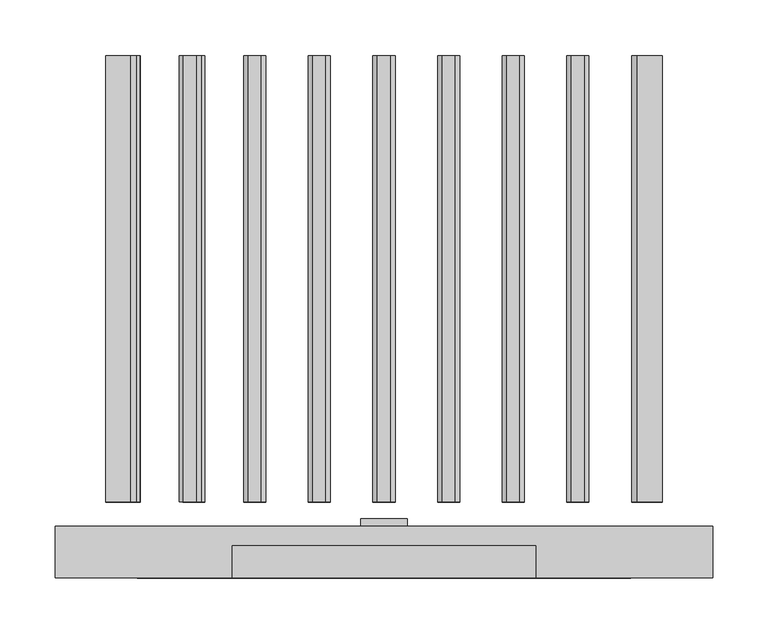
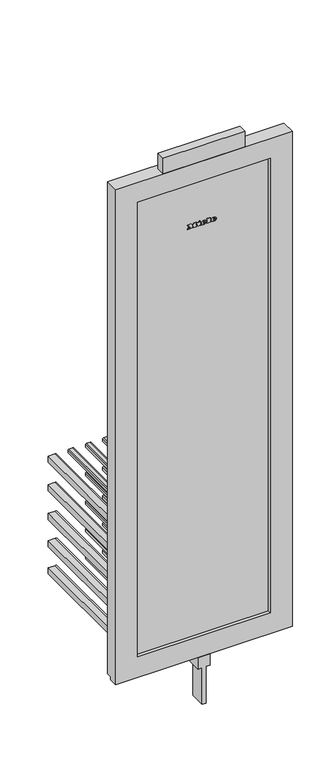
"""IFC4 building model written with IfcOpenShell, lengths in millimetres: proxy geometry, 11261360_GB_KWT2611VI : 36261105_GB_11261360_KWT2611VI."""

from ifc_helpers import new_model, si_unit, point, frame, frame_2d, origin, place, context, project, spatial, polyline, circle_curve, ellipse_curve, trimmed, segment, composite_curve, outline, extrude, faceted_brep, source, transform, mapped, element, save
from ifc_brep_helpers import plane_surface, cylinder_surface, revolved_surface, extruded_surface, advanced_brep


def specialty_equipment_8097dcfd(model_context):
    return source(origin(), model_context, "Body", "SolidModel", [
        faceted_brep([(21.0, 54.0, 229.0), (6.5, 54.0, 229.0), (6.5, 54.0, 98.0), (-6.5, 54.0, 98.0), (-6.5, 54.0, 229.0), (-21.0, 54.0, 229.0), (-21.0, 54.0, 267.0), (21.0, 54.0, 267.0), (-21.0, 0.0, 270.0), (-21.0, 0.0, 229.0), (-6.5, 0.0, 229.0), (-6.5, 0.0, 98.0), (6.5, 0.0, 98.0), (6.5, 0.0, 229.0), (21.0, 0.0, 229.0), (21.0, 0.0, 270.0), (21.0, 47.0, 270.0), (-21.0, 47.0, 270.0), (21.0, 47.0, 267.0), (-21.0, 47.0, 267.0)], [[[0, 1, 2, 3, 4, 5, 6, 7]], [[8, 9, 10, 11, 12, 13, 14, 15]], [[8, 15, 16, 17]], [[15, 14, 0, 7, 18, 16]], [[1, 0, 14, 13]], [[2, 1, 13, 12]], [[3, 2, 12, 11]], [[4, 3, 11, 10]], [[5, 4, 10, 9]], [[9, 8, 17, 19, 6, 5]], [[19, 18, 7, 6]], [[18, 19, 17, 16]]]),
        extrude(outline(polyline([(-223.5, 32.0), (223.5, 32.0), (223.5, 12.0), (-223.5, 12.0), (-223.5, 32.0)])), frame((0.0, 0.0, 344.0), z_axis=(0.0, 0.0, 1.0), x_axis=(1.0, 0.0, 0.0)), (0.0, 0.0, 1.0), 1620.0),
        extrude(outline(polyline([(-137.5, 29.0), (137.5, 29.0), (137.5, 0.0), (-137.5, 0.0), (-137.5, 29.0)])), frame((0.0, 0.0, 2034.0), z_axis=(0.0, 0.0, 1.0), x_axis=(1.0, 0.0, 0.0)), (0.0, 0.0, 1.0), 56.0),
        faceted_brep([(-297.5, 47.0, 2034.0), (-297.5, 47.0, 281.0), (-297.5, 29.0, 281.0), (-297.5, 29.0, 270.0), (-297.5, 0.0, 270.0), (-297.5, 0.0, 2034.0), (297.5, 47.0, 2034.0), (297.5, 0.0, 2034.0), (297.5, 0.0, 270.0), (297.5, 29.0, 270.0), (297.5, 29.0, 281.0), (297.5, 47.0, 281.0), (223.5, 0.0, 1964.0), (223.5, 0.0, 344.0), (-223.5, 0.0, 344.0), (-223.5, 0.0, 1964.0), (223.5, 47.0, 344.0), (223.5, 47.0, 1964.0), (-223.5, 47.0, 1964.0), (-223.5, 47.0, 344.0)], [[[0, 1, 2, 3, 4, 5]], [[6, 7, 8, 9, 10, 11]], [[0, 5, 7, 6]], [[5, 4, 8, 7], [12, 13, 14, 15]], [[4, 3, 9, 8]], [[3, 2, 10, 9]], [[2, 1, 11, 10]], [[1, 0, 6, 11], [16, 17, 18, 19]], [[16, 13, 12, 17]], [[13, 16, 19, 14]], [[14, 19, 18, 15]], [[17, 12, 15, 18]]]),
        advanced_brep(
        [(38.22, 11.0, 1801.792), (38.22, 11.0, 1803.408), (48.924, 11.0, 1803.408), (30.3, 11.0, 1803.408), (34.7, 11.0, 1798.0), (48.652, 11.0, 1801.792), (43.82, 11.0, 1801.792), (40.012, 11.0, 1800.0), (38.22, 11.0, 1805.456), (38.22, 11.0, 1807.2), (40.956, 11.0, 1807.2), (40.956, 11.0, 1805.456), (38.22, 12.0, 1801.792), (40.012, 12.0, 1800.0), (43.82, 12.0, 1801.792), (48.652, 12.0, 1801.792), (34.7, 12.0, 1798.0), (30.3, 12.0, 1803.408), (48.924, 12.0, 1803.408), (38.22, 12.0, 1803.408), (38.22, 12.0, 1805.456), (40.956, 12.0, 1805.456), (40.956, 12.0, 1807.2), (38.22, 12.0, 1807.2)],
        [
            (0, 1),
            (1, 2),
            (2, 3, ellipse_curve(frame((39.612, 11.0, 1803.408), z_axis=(0.0, -1.0, 0.0), x_axis=(-1.0, 0.0, 0.0)), 9.312, 7.696)),
            (3, 4, circle_curve(frame((36.4920873, 11.0, 1803.952), z_axis=(0.0, -1.0, 0.0), x_axis=(0.0, 0.0, -1.0)), 6.2159376)),
            (4, 5, circle_curve(frame((39.4255872, 11.0, 1808.176), z_axis=(0.0, -1.0, 0.0), x_axis=(0.0, 0.0, -1.0)), 11.2197215)),
            (5, 6),
            (6, 7, circle_curve(frame((40.7941176, 11.0, 1803.28), z_axis=(0.0, 1.0, 0.0), x_axis=(0.0, 0.0, -1.0)), 3.3719591)),
            (7, 0, circle_curve(frame((40.012, 11.0, 1801.792), z_axis=(0.0, 1.0, 0.0), x_axis=(0.0, 0.0, -1.0)), 1.792)),
            (8, 9),
            (9, 10, circle_curve(frame((39.588, 11.0, 1807.2), z_axis=(0.0, 1.0, 0.0), x_axis=(0.0, 0.0, -1.0)), 1.368)),
            (10, 11),
            (11, 8),
            (12, 13, circle_curve(frame((40.012, 12.0, 1801.792), z_axis=(0.0, -1.0, 0.0), x_axis=(0.0, 0.0, -1.0)), 1.792)),
            (13, 14, circle_curve(frame((40.7941176, 12.0, 1803.28), z_axis=(0.0, -1.0, 0.0), x_axis=(0.0, 0.0, -1.0)), 3.3719591)),
            (14, 15),
            (15, 16, circle_curve(frame((39.4255872, 12.0, 1808.176), z_axis=(0.0, 1.0, 0.0), x_axis=(0.0, 0.0, -1.0)), 11.2197215)),
            (16, 17, circle_curve(frame((36.4920873, 12.0, 1803.952), z_axis=(0.0, 1.0, 0.0), x_axis=(0.0, 0.0, -1.0)), 6.2159376)),
            (17, 18, ellipse_curve(frame((39.612, 12.0, 1803.408), z_axis=(0.0, 1.0, 0.0), x_axis=(-1.0, 0.0, 0.0)), 9.312, 7.696)),
            (18, 19),
            (19, 12),
            (20, 21),
            (21, 22),
            (22, 23, circle_curve(frame((39.588, 12.0, 1807.2), z_axis=(0.0, -1.0, 0.0), x_axis=(0.0, 0.0, -1.0)), 1.368)),
            (23, 20),
            (0, 12),
            (19, 1),
            (18, 2),
            (5, 15),
            (14, 6),
            (17, 3),
            (13, 7),
            (16, 4),
            (8, 20),
            (23, 9),
            (22, 10),
            (21, 11),
        ],
        [
            plane_surface(frame((38.22, 11.0, 1803.408), z_axis=(0.0, -1.0, 0.0), x_axis=(0.0, 0.0, 1.0))),
            plane_surface(frame((38.22, 12.0, 1803.408), z_axis=(0.0, 1.0, 0.0), x_axis=(0.0, 0.0, -1.0))),
            plane_surface(frame((38.22, 11.0, 1801.792), z_axis=(1.0, 0.0, 0.0), x_axis=(0.0, 1.0, 0.0))),
            plane_surface(frame((38.22, 11.0, 1803.408), z_axis=(0.0, 0.0, -1.0), x_axis=(0.0, 1.0, 0.0))),
            plane_surface(frame((48.652, 11.0, 1801.792), z_axis=(0.0, 0.0, 1.0), x_axis=(0.0, 1.0, 0.0))),
            extruded_surface(trimmed(ellipse_curve(frame((39.612, 13.0, 1803.408), z_axis=(0.0, -1.0, 0.0), x_axis=(-1.0, 0.0, 0.0)), 9.312, 7.696), [point((48.924, 13.0, 1803.408))], [point((30.3, 13.0, 1803.408))], True, "CARTESIAN"), (0.0, -1.0, 0.0), 1.0),
            revolved_surface(polyline([(40.7941176, 12.0, 1799.9080409), (40.7941176, 11.0, 1799.9080409)]), (40.7941176, 12.0, 1803.28), (0.0, 1.0, 0.0)),
            revolved_surface(polyline([(40.012, 12.0, 1800.0), (40.012, 11.0, 1800.0)]), (40.012, 12.0, 1801.792), (0.0, 1.0, 0.0)),
            cylinder_surface(frame((36.4920873, 12.0, 1803.952), z_axis=(0.0, -1.0, 0.0), x_axis=(0.0, 0.0, -1.0)), 6.2159376),
            cylinder_surface(frame((39.4255872, 12.0, 1808.176), z_axis=(0.0, -1.0, 0.0), x_axis=(0.0, 0.0, -1.0)), 11.2197215),
            plane_surface(frame((38.22, 11.0, 1805.456), z_axis=(1.0, 0.0, 0.0), x_axis=(0.0, 1.0, 0.0))),
            revolved_surface(polyline([(39.588, 12.0, 1805.832), (39.588, 11.0, 1805.832)]), (39.588, 12.0, 1807.2), (0.0, 1.0, 0.0)),
            plane_surface(frame((40.956, 11.0, 1807.2), z_axis=(-1.0, 0.0, 0.0), x_axis=(0.0, 1.0, 0.0))),
            plane_surface(frame((40.956, 11.0, 1805.456), z_axis=(0.0, 0.0, 1.0), x_axis=(0.0, 1.0, 0.0))),
        ],
        [
            (0, [[1, 2, 3, 4, 5, 6, 7, 8], [9, 10, 11, 12]]),
            (1, [[13, 14, 15, 16, 17, 18, 19, 20], [21, 22, 23, 24]]),
            (2, [[-1, 25, -20, 26]]),
            (3, [[-2, -26, -19, 27]]),
            (4, [[-6, 28, -15, 29]]),
            (5, [[-3, -27, -18, 30]]),
            (6, [[-7, -29, -14, 31]]),
            (7, [[-8, -31, -13, -25]]),
            (8, [[-4, -30, -17, 32]]),
            (9, [[-5, -32, -16, -28]]),
            (10, [[-9, 33, -24, 34]]),
            (11, [[-10, -34, -23, 35]]),
            (12, [[-11, -35, -22, 36]]),
            (13, [[-12, -36, -21, -33]]),
        ],
    ),
        advanced_brep(
        [(4.828, 11.0, 1801.792), (4.828, 11.0, 1803.408), (15.532, 11.0, 1803.408), (-3.092, 11.0, 1803.408), (1.308, 11.0, 1798.0), (15.26, 11.0, 1801.792), (10.428, 11.0, 1801.792), (6.62, 11.0, 1800.0), (4.828, 11.0, 1805.456), (4.828, 11.0, 1807.2), (7.564, 11.0, 1807.2), (7.564, 11.0, 1805.456), (4.828, 12.0, 1801.792), (6.62, 12.0, 1800.0), (10.428, 12.0, 1801.792), (15.26, 12.0, 1801.792), (1.308, 12.0, 1798.0), (-3.092, 12.0, 1803.408), (15.532, 12.0, 1803.408), (4.828, 12.0, 1803.408), (4.828, 12.0, 1805.456), (7.564, 12.0, 1805.456), (7.564, 12.0, 1807.2), (4.828, 12.0, 1807.2)],
        [
            (0, 1),
            (1, 2),
            (2, 3, ellipse_curve(frame((6.22, 11.0, 1803.408), z_axis=(0.0, -1.0, 0.0), x_axis=(-1.0, 0.0, 0.0)), 9.312, 7.696)),
            (3, 4, circle_curve(frame((3.1000873, 11.0, 1803.952), z_axis=(0.0, -1.0, 0.0), x_axis=(0.0, 0.0, -1.0)), 6.2159376)),
            (4, 5, circle_curve(frame((6.0335872, 11.0, 1808.176), z_axis=(0.0, -1.0, 0.0), x_axis=(0.0, 0.0, -1.0)), 11.2197215)),
            (5, 6),
            (6, 7, circle_curve(frame((7.4021176, 11.0, 1803.28), z_axis=(0.0, 1.0, 0.0), x_axis=(0.0, 0.0, -1.0)), 3.3719591)),
            (7, 0, circle_curve(frame((6.62, 11.0, 1801.792), z_axis=(0.0, 1.0, 0.0), x_axis=(0.0, 0.0, -1.0)), 1.792)),
            (8, 9),
            (9, 10, circle_curve(frame((6.196, 11.0, 1807.2), z_axis=(0.0, 1.0, 0.0), x_axis=(0.0, 0.0, -1.0)), 1.368)),
            (10, 11),
            (11, 8),
            (12, 13, circle_curve(frame((6.62, 12.0, 1801.792), z_axis=(0.0, -1.0, 0.0), x_axis=(0.0, 0.0, -1.0)), 1.792)),
            (13, 14, circle_curve(frame((7.4021176, 12.0, 1803.28), z_axis=(0.0, -1.0, 0.0), x_axis=(0.0, 0.0, -1.0)), 3.3719591)),
            (14, 15),
            (15, 16, circle_curve(frame((6.0335872, 12.0, 1808.176), z_axis=(0.0, 1.0, 0.0), x_axis=(0.0, 0.0, -1.0)), 11.2197215)),
            (16, 17, circle_curve(frame((3.1000873, 12.0, 1803.952), z_axis=(0.0, 1.0, 0.0), x_axis=(0.0, 0.0, -1.0)), 6.2159376)),
            (17, 18, ellipse_curve(frame((6.22, 12.0, 1803.408), z_axis=(0.0, 1.0, 0.0), x_axis=(-1.0, 0.0, 0.0)), 9.312, 7.696)),
            (18, 19),
            (19, 12),
            (20, 21),
            (21, 22),
            (22, 23, circle_curve(frame((6.196, 12.0, 1807.2), z_axis=(0.0, -1.0, 0.0), x_axis=(0.0, 0.0, -1.0)), 1.368)),
            (23, 20),
            (0, 12),
            (19, 1),
            (18, 2),
            (5, 15),
            (14, 6),
            (17, 3),
            (13, 7),
            (16, 4),
            (8, 20),
            (23, 9),
            (22, 10),
            (21, 11),
        ],
        [
            plane_surface(frame((4.828, 11.0, 1803.408), z_axis=(0.0, -1.0, 0.0), x_axis=(0.0, 0.0, 1.0))),
            plane_surface(frame((4.828, 12.0, 1803.408), z_axis=(0.0, 1.0, 0.0), x_axis=(0.0, 0.0, -1.0))),
            plane_surface(frame((4.828, 11.0, 1801.792), z_axis=(1.0, 0.0, 0.0), x_axis=(0.0, 1.0, 0.0))),
            plane_surface(frame((4.828, 11.0, 1803.408), z_axis=(0.0, 0.0, -1.0), x_axis=(0.0, 1.0, 0.0))),
            plane_surface(frame((15.26, 11.0, 1801.792), z_axis=(0.0, 0.0, 1.0), x_axis=(0.0, 1.0, 0.0))),
            extruded_surface(trimmed(ellipse_curve(frame((6.22, 13.0, 1803.408), z_axis=(0.0, -1.0, 0.0), x_axis=(-1.0, 0.0, 0.0)), 9.312, 7.696), [point((15.532, 13.0, 1803.408))], [point((-3.092, 13.0, 1803.408))], True, "CARTESIAN"), (0.0, -1.0, 0.0), 1.0),
            revolved_surface(polyline([(7.4021176, 12.0, 1799.9080409), (7.4021176, 11.0, 1799.9080409)]), (7.4021176, 12.0, 1803.28), (0.0, 1.0, 0.0)),
            revolved_surface(polyline([(6.62, 12.0, 1800.0), (6.62, 11.0, 1800.0)]), (6.62, 12.0, 1801.792), (0.0, 1.0, 0.0)),
            cylinder_surface(frame((3.1000873, 12.0, 1803.952), z_axis=(0.0, -1.0, 0.0), x_axis=(0.0, 0.0, -1.0)), 6.2159376),
            cylinder_surface(frame((6.0335872, 12.0, 1808.176), z_axis=(0.0, -1.0, 0.0), x_axis=(0.0, 0.0, -1.0)), 11.2197215),
            plane_surface(frame((4.828, 11.0, 1805.456), z_axis=(1.0, 0.0, 0.0), x_axis=(0.0, 1.0, 0.0))),
            revolved_surface(polyline([(6.196, 12.0, 1805.832), (6.196, 11.0, 1805.832)]), (6.196, 12.0, 1807.2), (0.0, 1.0, 0.0)),
            plane_surface(frame((7.564, 11.0, 1807.2), z_axis=(-1.0, 0.0, 0.0), x_axis=(0.0, 1.0, 0.0))),
            plane_surface(frame((7.564, 11.0, 1805.456), z_axis=(0.0, 0.0, 1.0), x_axis=(0.0, 1.0, 0.0))),
        ],
        [
            (0, [[1, 2, 3, 4, 5, 6, 7, 8], [9, 10, 11, 12]]),
            (1, [[13, 14, 15, 16, 17, 18, 19, 20], [21, 22, 23, 24]]),
            (2, [[-1, 25, -20, 26]]),
            (3, [[-2, -26, -19, 27]]),
            (4, [[-6, 28, -15, 29]]),
            (5, [[-3, -27, -18, 30]]),
            (6, [[-7, -29, -14, 31]]),
            (7, [[-8, -31, -13, -25]]),
            (8, [[-4, -30, -17, 32]]),
            (9, [[-5, -32, -16, -28]]),
            (10, [[-9, 33, -24, 34]]),
            (11, [[-10, -34, -23, 35]]),
            (12, [[-11, -35, -22, 36]]),
            (13, [[-12, -36, -21, -33]]),
        ],
    ),
        extrude(outline(polyline([(1813.056, -12.66), (1810.464, -11.444), (1812.992, -6.02), (1815.584, -7.22), (1813.056, -12.66)])), frame((0.0, 11.0, 0.0), z_axis=(0.0, 1.0, 0.0), x_axis=(0.0, 0.0, 1.0)), (0.0, 0.0, 1.0), 1.0),
        extrude(outline(polyline([(1810.112, -16.612), (1807.248, -16.612), (1807.248, -14.708), (1800.688, -14.708), (1800.688, -16.612), (1798.0, -16.612), (1798.0, -3.988), (1800.688, -3.988), (1800.688, -5.844), (1810.112, -5.844), (1810.112, -16.612)])), frame((0.0, 11.0, 0.0), z_axis=(0.0, 1.0, 0.0), x_axis=(0.0, 0.0, 1.0)), (0.0, 0.0, 1.0), 1.0),
        extrude(outline(polyline([(1811.392, 16.428), (1811.392, 18.348), (1800.688, 18.348), (1800.688, 16.428), (1798.0, 16.428), (1798.0, 29.404), (1800.688, 29.404), (1800.688, 27.436), (1814.0, 27.436), (1814.0, 16.428), (1811.392, 16.428)])), frame((0.0, 11.0, 0.0), z_axis=(0.0, 1.0, 0.0), x_axis=(0.0, 0.0, 1.0)), (0.0, 0.0, 1.0), 1.0),
        extrude(outline(polyline([(1811.392, -48.5), (1811.392, -46.564), (1800.688, -46.564), (1800.688, -48.5), (1798.0, -48.5), (1798.0, -41.46), (1800.688, -41.46), (1800.688, -43.38), (1807.4431247, -43.38), (1798.0, -36.228), (1807.8152223, -29.044), (1800.688, -29.044), (1800.688, -31.012), (1798.0, -31.012), (1798.0, -18.244), (1800.688, -18.244), (1800.688, -20.276), (1811.392, -20.276), (1811.392, -18.244), (1814.0, -18.244), (1814.0, -27.988), (1808.0, -32.66), (1814.0, -37.348), (1814.0, -48.5), (1811.392, -48.5)])), frame((0.0, 11.0, 0.0), z_axis=(0.0, 1.0, 0.0), x_axis=(0.0, 0.0, 1.0)), (0.0, 0.0, 1.0), 1.0),
        extrude(outline(composite_curve([segment(polyline([(384.0, -252.0), (362.0, -252.0), (362.0, -229.0)]), True, "CONTINUOUS"), segment(trimmed(circle_curve(frame_2d((370.425484, -229.0)), 8.425484), [point((362.0, -229.0))], [point((370.425484, -220.574516))], False, "CARTESIAN"), True, "CONTINUOUS"), segment(polyline([(370.425484, -220.574516), (375.574516, -220.574516)]), True, "CONTINUOUS"), segment(trimmed(circle_curve(frame_2d((375.574516, -229.0)), 8.425484), [point((375.574516, -220.574516))], [point((384.0, -229.0))], False, "CARTESIAN"), True, "CONTINUOUS"), segment(polyline([(384.0, -229.0), (384.0, -252.0)]), True, "CONTINUOUS")], self_intersect=False)), frame((0.0, 69.0, 0.0), z_axis=(0.0, 1.0, 0.0), x_axis=(0.0, 0.0, 1.0)), (0.0, 0.0, 1.0), 404.0),
        extrude(outline(composite_curve([segment(polyline([(380.0, -182.074516), (372.039218, -182.074516), (372.039218, -162.074516), (380.0, -162.074516)]), True, "CONTINUOUS"), segment(trimmed(circle_curve(frame_2d((380.0, -166.074516)), 4.0), [point((380.0, -162.074516))], [point((384.0, -166.074516))], False, "CARTESIAN"), True, "CONTINUOUS"), segment(polyline([(384.0, -166.074516), (384.0, -178.074516)]), True, "CONTINUOUS"), segment(trimmed(circle_curve(frame_2d((380.0, -178.074516)), 4.0), [point((384.0, -178.074516))], [point((380.0, -182.074516))], False, "CARTESIAN"), True, "CONTINUOUS")], self_intersect=False)), frame((0.0, 69.0, 0.0), z_axis=(0.0, 1.0, 0.0), x_axis=(0.0, 0.0, 1.0)), (0.0, 0.0, 1.0), 404.0),
        extrude(outline(composite_curve([segment(polyline([(384.0, 252.0), (384.0, 232.425484)]), True, "CONTINUOUS"), segment(trimmed(circle_curve(frame_2d((375.574516, 232.425484)), 8.425484), [point((384.0, 232.425484))], [point((375.574516, 224.0))], False, "CARTESIAN"), True, "CONTINUOUS"), segment(polyline([(375.574516, 224.0), (367.0, 224.0)]), True, "CONTINUOUS"), segment(trimmed(circle_curve(frame_2d((367.0, 229.0)), 5.0), [point((367.0, 224.0))], [point((362.0, 229.0))], False, "CARTESIAN"), True, "CONTINUOUS"), segment(polyline([(362.0, 229.0), (362.0, 252.0), (384.0, 252.0)]), True, "CONTINUOUS")], self_intersect=False)), frame((0.0, 69.0, 0.0), z_axis=(0.0, 1.0, 0.0), x_axis=(0.0, 0.0, 1.0)), (0.0, 0.0, 1.0), 404.0),
        extrude(outline(composite_curve([segment(polyline([(380.0, -127.0), (372.039218, -127.0), (372.039218, -107.0), (380.0, -107.0)]), True, "CONTINUOUS"), segment(trimmed(circle_curve(frame_2d((380.0, -111.0)), 4.0), [point((380.0, -107.0))], [point((384.0, -111.0))], False, "CARTESIAN"), True, "CONTINUOUS"), segment(polyline([(384.0, -111.0), (384.0, -123.0)]), True, "CONTINUOUS"), segment(trimmed(circle_curve(frame_2d((380.0, -123.0)), 4.0), [point((384.0, -123.0))], [point((380.0, -127.0))], False, "CARTESIAN"), True, "CONTINUOUS")], self_intersect=False)), frame((0.0, 69.0, 0.0), z_axis=(0.0, 1.0, 0.0), x_axis=(0.0, 0.0, 1.0)), (0.0, 0.0, 1.0), 404.0),
        extrude(outline(composite_curve([segment(polyline([(380.0, -68.5), (372.039218, -68.5), (372.039218, -48.5), (380.0, -48.5)]), True, "CONTINUOUS"), segment(trimmed(circle_curve(frame_2d((380.0, -52.5)), 4.0), [point((380.0, -48.5))], [point((384.0, -52.5))], False, "CARTESIAN"), True, "CONTINUOUS"), segment(polyline([(384.0, -52.5), (384.0, -64.5)]), True, "CONTINUOUS"), segment(trimmed(circle_curve(frame_2d((380.0, -64.5)), 4.0), [point((384.0, -64.5))], [point((380.0, -68.5))], False, "CARTESIAN"), True, "CONTINUOUS")], self_intersect=False)), frame((0.0, 69.0, 0.0), z_axis=(0.0, 1.0, 0.0), x_axis=(0.0, 0.0, 1.0)), (0.0, 0.0, 1.0), 404.0),
        extrude(outline(composite_curve([segment(polyline([(380.0, -10.0), (372.039218, -10.0), (372.039218, 10.0), (380.0, 10.0)]), True, "CONTINUOUS"), segment(trimmed(circle_curve(frame_2d((380.0, 6.0)), 4.0), [point((380.0, 10.0))], [point((384.0, 6.0))], False, "CARTESIAN"), True, "CONTINUOUS"), segment(polyline([(384.0, 6.0), (384.0, -6.0)]), True, "CONTINUOUS"), segment(trimmed(circle_curve(frame_2d((380.0, -6.0)), 4.0), [point((384.0, -6.0))], [point((380.0, -10.0))], False, "CARTESIAN"), True, "CONTINUOUS")], self_intersect=False)), frame((0.0, 69.0, 0.0), z_axis=(0.0, 1.0, 0.0), x_axis=(0.0, 0.0, 1.0)), (0.0, 0.0, 1.0), 404.0),
        extrude(outline(composite_curve([segment(polyline([(380.0, 48.5), (372.039218, 48.5), (372.039218, 68.5), (380.0, 68.5)]), True, "CONTINUOUS"), segment(trimmed(circle_curve(frame_2d((380.0, 64.5)), 4.0), [point((380.0, 68.5))], [point((384.0, 64.5))], False, "CARTESIAN"), True, "CONTINUOUS"), segment(polyline([(384.0, 64.5), (384.0, 52.5)]), True, "CONTINUOUS"), segment(trimmed(circle_curve(frame_2d((380.0, 52.5)), 4.0), [point((384.0, 52.5))], [point((380.0, 48.5))], False, "CARTESIAN"), True, "CONTINUOUS")], self_intersect=False)), frame((0.0, 69.0, 0.0), z_axis=(0.0, 1.0, 0.0), x_axis=(0.0, 0.0, 1.0)), (0.0, 0.0, 1.0), 404.0),
        extrude(outline(composite_curve([segment(polyline([(380.0, 107.0), (372.039218, 107.0), (372.039218, 127.0), (380.0, 127.0)]), True, "CONTINUOUS"), segment(trimmed(circle_curve(frame_2d((380.0, 123.0)), 4.0), [point((380.0, 127.0))], [point((384.0, 123.0))], False, "CARTESIAN"), True, "CONTINUOUS"), segment(polyline([(384.0, 123.0), (384.0, 111.0)]), True, "CONTINUOUS"), segment(trimmed(circle_curve(frame_2d((380.0, 111.0)), 4.0), [point((384.0, 111.0))], [point((380.0, 107.0))], False, "CARTESIAN"), True, "CONTINUOUS")], self_intersect=False)), frame((0.0, 69.0, 0.0), z_axis=(0.0, 1.0, 0.0), x_axis=(0.0, 0.0, 1.0)), (0.0, 0.0, 1.0), 404.0),
        extrude(outline(composite_curve([segment(polyline([(380.0, 165.5), (372.039218, 165.5), (372.039218, 185.5), (380.0, 185.5)]), True, "CONTINUOUS"), segment(trimmed(circle_curve(frame_2d((380.0, 181.5)), 4.0), [point((380.0, 185.5))], [point((384.0, 181.5))], False, "CARTESIAN"), True, "CONTINUOUS"), segment(polyline([(384.0, 181.5), (384.0, 169.5)]), True, "CONTINUOUS"), segment(trimmed(circle_curve(frame_2d((380.0, 169.5)), 4.0), [point((384.0, 169.5))], [point((380.0, 165.5))], False, "CARTESIAN"), True, "CONTINUOUS")], self_intersect=False)), frame((0.0, 69.0, 0.0), z_axis=(0.0, 1.0, 0.0), x_axis=(0.0, 0.0, 1.0)), (0.0, 0.0, 1.0), 404.0),
        extrude(outline(composite_curve([segment(polyline([(481.0, -252.0), (459.0, -252.0), (459.0, -229.0)]), True, "CONTINUOUS"), segment(trimmed(circle_curve(frame_2d((467.4449316, -229.0)), 8.4449316), [point((459.0, -229.0))], [point((467.4449316, -220.5550684))], False, "CARTESIAN"), True, "CONTINUOUS"), segment(polyline([(467.4449316, -220.5550684), (472.5550684, -220.5550684)]), True, "CONTINUOUS"), segment(trimmed(circle_curve(frame_2d((472.5550684, -229.0)), 8.4449316), [point((472.5550684, -220.5550684))], [point((481.0, -229.0))], False, "CARTESIAN"), True, "CONTINUOUS"), segment(polyline([(481.0, -229.0), (481.0, -252.0)]), True, "CONTINUOUS")], self_intersect=False)), frame((0.0, 69.0, 0.0), z_axis=(0.0, 1.0, 0.0), x_axis=(0.0, 0.0, 1.0)), (0.0, 0.0, 1.0), 404.0),
        extrude(outline(composite_curve([segment(polyline([(477.0, -182.0550684), (469.039218, -182.0550684), (469.039218, -162.0550684), (477.0, -162.0550684)]), True, "CONTINUOUS"), segment(trimmed(circle_curve(frame_2d((477.0, -166.0550684)), 4.0), [point((477.0, -162.0550684))], [point((481.0, -166.0550684))], False, "CARTESIAN"), True, "CONTINUOUS"), segment(polyline([(481.0, -166.0550684), (481.0, -178.0550684)]), True, "CONTINUOUS"), segment(trimmed(circle_curve(frame_2d((477.0, -178.0550684)), 4.0), [point((481.0, -178.0550684))], [point((477.0, -182.0550684))], False, "CARTESIAN"), True, "CONTINUOUS")], self_intersect=False)), frame((0.0, 69.0, 0.0), z_axis=(0.0, 1.0, 0.0), x_axis=(0.0, 0.0, 1.0)), (0.0, 0.0, 1.0), 404.0),
        extrude(outline(composite_curve([segment(polyline([(481.0, 252.0), (481.0, 232.4449316)]), True, "CONTINUOUS"), segment(trimmed(circle_curve(frame_2d((472.5550684, 232.4449316)), 8.4449316), [point((481.0, 232.4449316))], [point((472.5550684, 224.0))], False, "CARTESIAN"), True, "CONTINUOUS"), segment(polyline([(472.5550684, 224.0), (464.0, 224.0)]), True, "CONTINUOUS"), segment(trimmed(circle_curve(frame_2d((464.0, 229.0)), 5.0), [point((464.0, 224.0))], [point((459.0, 229.0))], False, "CARTESIAN"), True, "CONTINUOUS"), segment(polyline([(459.0, 229.0), (459.0, 252.0), (481.0, 252.0)]), True, "CONTINUOUS")], self_intersect=False)), frame((0.0, 69.0, 0.0), z_axis=(0.0, 1.0, 0.0), x_axis=(0.0, 0.0, 1.0)), (0.0, 0.0, 1.0), 404.0),
        extrude(outline(composite_curve([segment(polyline([(477.0, -127.0), (469.039218, -127.0), (469.039218, -107.0), (477.0, -107.0)]), True, "CONTINUOUS"), segment(trimmed(circle_curve(frame_2d((477.0, -111.0)), 4.0), [point((477.0, -107.0))], [point((481.0, -111.0))], False, "CARTESIAN"), True, "CONTINUOUS"), segment(polyline([(481.0, -111.0), (481.0, -123.0)]), True, "CONTINUOUS"), segment(trimmed(circle_curve(frame_2d((477.0, -123.0)), 4.0), [point((481.0, -123.0))], [point((477.0, -127.0))], False, "CARTESIAN"), True, "CONTINUOUS")], self_intersect=False)), frame((0.0, 69.0, 0.0), z_axis=(0.0, 1.0, 0.0), x_axis=(0.0, 0.0, 1.0)), (0.0, 0.0, 1.0), 404.0),
        extrude(outline(composite_curve([segment(polyline([(477.0, -68.5), (469.039218, -68.5), (469.039218, -48.5), (477.0, -48.5)]), True, "CONTINUOUS"), segment(trimmed(circle_curve(frame_2d((477.0, -52.5)), 4.0), [point((477.0, -48.5))], [point((481.0, -52.5))], False, "CARTESIAN"), True, "CONTINUOUS"), segment(polyline([(481.0, -52.5), (481.0, -64.5)]), True, "CONTINUOUS"), segment(trimmed(circle_curve(frame_2d((477.0, -64.5)), 4.0), [point((481.0, -64.5))], [point((477.0, -68.5))], False, "CARTESIAN"), True, "CONTINUOUS")], self_intersect=False)), frame((0.0, 69.0, 0.0), z_axis=(0.0, 1.0, 0.0), x_axis=(0.0, 0.0, 1.0)), (0.0, 0.0, 1.0), 404.0),
        extrude(outline(composite_curve([segment(polyline([(477.0, -10.0), (469.039218, -10.0), (469.039218, 10.0), (477.0, 10.0)]), True, "CONTINUOUS"), segment(trimmed(circle_curve(frame_2d((477.0, 6.0)), 4.0), [point((477.0, 10.0))], [point((481.0, 6.0))], False, "CARTESIAN"), True, "CONTINUOUS"), segment(polyline([(481.0, 6.0), (481.0, -6.0)]), True, "CONTINUOUS"), segment(trimmed(circle_curve(frame_2d((477.0, -6.0)), 4.0), [point((481.0, -6.0))], [point((477.0, -10.0))], False, "CARTESIAN"), True, "CONTINUOUS")], self_intersect=False)), frame((0.0, 69.0, 0.0), z_axis=(0.0, 1.0, 0.0), x_axis=(0.0, 0.0, 1.0)), (0.0, 0.0, 1.0), 404.0),
        extrude(outline(composite_curve([segment(polyline([(477.0, 48.5), (469.039218, 48.5), (469.039218, 68.5), (477.0, 68.5)]), True, "CONTINUOUS"), segment(trimmed(circle_curve(frame_2d((477.0, 64.5)), 4.0), [point((477.0, 68.5))], [point((481.0, 64.5))], False, "CARTESIAN"), True, "CONTINUOUS"), segment(polyline([(481.0, 64.5), (481.0, 52.5)]), True, "CONTINUOUS"), segment(trimmed(circle_curve(frame_2d((477.0, 52.5)), 4.0), [point((481.0, 52.5))], [point((477.0, 48.5))], False, "CARTESIAN"), True, "CONTINUOUS")], self_intersect=False)), frame((0.0, 69.0, 0.0), z_axis=(0.0, 1.0, 0.0), x_axis=(0.0, 0.0, 1.0)), (0.0, 0.0, 1.0), 404.0),
        extrude(outline(composite_curve([segment(polyline([(477.0, 107.0), (469.039218, 107.0), (469.039218, 127.0), (477.0, 127.0)]), True, "CONTINUOUS"), segment(trimmed(circle_curve(frame_2d((477.0, 123.0)), 4.0), [point((477.0, 127.0))], [point((481.0, 123.0))], False, "CARTESIAN"), True, "CONTINUOUS"), segment(polyline([(481.0, 123.0), (481.0, 111.0)]), True, "CONTINUOUS"), segment(trimmed(circle_curve(frame_2d((477.0, 111.0)), 4.0), [point((481.0, 111.0))], [point((477.0, 107.0))], False, "CARTESIAN"), True, "CONTINUOUS")], self_intersect=False)), frame((0.0, 69.0, 0.0), z_axis=(0.0, 1.0, 0.0), x_axis=(0.0, 0.0, 1.0)), (0.0, 0.0, 1.0), 404.0),
        extrude(outline(composite_curve([segment(polyline([(477.0, 165.5), (469.039218, 165.5), (469.039218, 185.5), (477.0, 185.5)]), True, "CONTINUOUS"), segment(trimmed(circle_curve(frame_2d((477.0, 181.5)), 4.0), [point((477.0, 185.5))], [point((481.0, 181.5))], False, "CARTESIAN"), True, "CONTINUOUS"), segment(polyline([(481.0, 181.5), (481.0, 169.5)]), True, "CONTINUOUS"), segment(trimmed(circle_curve(frame_2d((477.0, 169.5)), 4.0), [point((481.0, 169.5))], [point((477.0, 165.5))], False, "CARTESIAN"), True, "CONTINUOUS")], self_intersect=False)), frame((0.0, 69.0, 0.0), z_axis=(0.0, 1.0, 0.0), x_axis=(0.0, 0.0, 1.0)), (0.0, 0.0, 1.0), 404.0),
        extrude(outline(composite_curve([segment(polyline([(578.0, -252.0), (556.0, -252.0), (556.0, -229.0)]), True, "CONTINUOUS"), segment(trimmed(circle_curve(frame_2d((564.119775, -229.0)), 8.119775), [point((556.0, -229.0))], [point((564.119775, -220.880225))], False, "CARTESIAN"), True, "CONTINUOUS"), segment(polyline([(564.119775, -220.880225), (569.880225, -220.880225)]), True, "CONTINUOUS"), segment(trimmed(circle_curve(frame_2d((569.880225, -229.0)), 8.119775), [point((569.880225, -220.880225))], [point((578.0, -229.0))], False, "CARTESIAN"), True, "CONTINUOUS"), segment(polyline([(578.0, -229.0), (578.0, -252.0)]), True, "CONTINUOUS")], self_intersect=False)), frame((0.0, 69.0, 0.0), z_axis=(0.0, 1.0, 0.0), x_axis=(0.0, 0.0, 1.0)), (0.0, 0.0, 1.0), 404.0),
        extrude(outline(composite_curve([segment(polyline([(574.0, -182.380225), (566.039218, -182.380225), (566.039218, -162.380225), (574.0, -162.380225)]), True, "CONTINUOUS"), segment(trimmed(circle_curve(frame_2d((574.0, -166.380225)), 4.0), [point((574.0, -162.380225))], [point((578.0, -166.380225))], False, "CARTESIAN"), True, "CONTINUOUS"), segment(polyline([(578.0, -166.380225), (578.0, -178.380225)]), True, "CONTINUOUS"), segment(trimmed(circle_curve(frame_2d((574.0, -178.380225)), 4.0), [point((578.0, -178.380225))], [point((574.0, -182.380225))], False, "CARTESIAN"), True, "CONTINUOUS")], self_intersect=False)), frame((0.0, 69.0, 0.0), z_axis=(0.0, 1.0, 0.0), x_axis=(0.0, 0.0, 1.0)), (0.0, 0.0, 1.0), 404.0),
        extrude(outline(composite_curve([segment(polyline([(578.0, 252.0), (578.0, 232.119775)]), True, "CONTINUOUS"), segment(trimmed(circle_curve(frame_2d((569.880225, 232.119775)), 8.119775), [point((578.0, 232.119775))], [point((569.880225, 224.0))], False, "CARTESIAN"), True, "CONTINUOUS"), segment(polyline([(569.880225, 224.0), (561.0, 224.0)]), True, "CONTINUOUS"), segment(trimmed(circle_curve(frame_2d((561.0, 229.0)), 5.0), [point((561.0, 224.0))], [point((556.0, 229.0))], False, "CARTESIAN"), True, "CONTINUOUS"), segment(polyline([(556.0, 229.0), (556.0, 252.0), (578.0, 252.0)]), True, "CONTINUOUS")], self_intersect=False)), frame((0.0, 69.0, 0.0), z_axis=(0.0, 1.0, 0.0), x_axis=(0.0, 0.0, 1.0)), (0.0, 0.0, 1.0), 404.0),
        extrude(outline(composite_curve([segment(polyline([(574.0, -127.0), (566.039218, -127.0), (566.039218, -107.0), (574.0, -107.0)]), True, "CONTINUOUS"), segment(trimmed(circle_curve(frame_2d((574.0, -111.0)), 4.0), [point((574.0, -107.0))], [point((578.0, -111.0))], False, "CARTESIAN"), True, "CONTINUOUS"), segment(polyline([(578.0, -111.0), (578.0, -123.0)]), True, "CONTINUOUS"), segment(trimmed(circle_curve(frame_2d((574.0, -123.0)), 4.0), [point((578.0, -123.0))], [point((574.0, -127.0))], False, "CARTESIAN"), True, "CONTINUOUS")], self_intersect=False)), frame((0.0, 69.0, 0.0), z_axis=(0.0, 1.0, 0.0), x_axis=(0.0, 0.0, 1.0)), (0.0, 0.0, 1.0), 404.0),
        extrude(outline(composite_curve([segment(polyline([(574.0, -68.5), (566.039218, -68.5), (566.039218, -48.5), (574.0, -48.5)]), True, "CONTINUOUS"), segment(trimmed(circle_curve(frame_2d((574.0, -52.5)), 4.0), [point((574.0, -48.5))], [point((578.0, -52.5))], False, "CARTESIAN"), True, "CONTINUOUS"), segment(polyline([(578.0, -52.5), (578.0, -64.5)]), True, "CONTINUOUS"), segment(trimmed(circle_curve(frame_2d((574.0, -64.5)), 4.0), [point((578.0, -64.5))], [point((574.0, -68.5))], False, "CARTESIAN"), True, "CONTINUOUS")], self_intersect=False)), frame((0.0, 69.0, 0.0), z_axis=(0.0, 1.0, 0.0), x_axis=(0.0, 0.0, 1.0)), (0.0, 0.0, 1.0), 404.0),
        extrude(outline(composite_curve([segment(polyline([(574.0, -10.0), (566.039218, -10.0), (566.039218, 10.0), (574.0, 10.0)]), True, "CONTINUOUS"), segment(trimmed(circle_curve(frame_2d((574.0, 6.0)), 4.0), [point((574.0, 10.0))], [point((578.0, 6.0))], False, "CARTESIAN"), True, "CONTINUOUS"), segment(polyline([(578.0, 6.0), (578.0, -6.0)]), True, "CONTINUOUS"), segment(trimmed(circle_curve(frame_2d((574.0, -6.0)), 4.0), [point((578.0, -6.0))], [point((574.0, -10.0))], False, "CARTESIAN"), True, "CONTINUOUS")], self_intersect=False)), frame((0.0, 69.0, 0.0), z_axis=(0.0, 1.0, 0.0), x_axis=(0.0, 0.0, 1.0)), (0.0, 0.0, 1.0), 404.0),
        extrude(outline(composite_curve([segment(polyline([(574.0, 48.5), (566.039218, 48.5), (566.039218, 68.5), (574.0, 68.5)]), True, "CONTINUOUS"), segment(trimmed(circle_curve(frame_2d((574.0, 64.5)), 4.0), [point((574.0, 68.5))], [point((578.0, 64.5))], False, "CARTESIAN"), True, "CONTINUOUS"), segment(polyline([(578.0, 64.5), (578.0, 52.5)]), True, "CONTINUOUS"), segment(trimmed(circle_curve(frame_2d((574.0, 52.5)), 4.0), [point((578.0, 52.5))], [point((574.0, 48.5))], False, "CARTESIAN"), True, "CONTINUOUS")], self_intersect=False)), frame((0.0, 69.0, 0.0), z_axis=(0.0, 1.0, 0.0), x_axis=(0.0, 0.0, 1.0)), (0.0, 0.0, 1.0), 404.0),
        extrude(outline(composite_curve([segment(polyline([(574.0, 107.0), (566.039218, 107.0), (566.039218, 127.0), (574.0, 127.0)]), True, "CONTINUOUS"), segment(trimmed(circle_curve(frame_2d((574.0, 123.0)), 4.0), [point((574.0, 127.0))], [point((578.0, 123.0))], False, "CARTESIAN"), True, "CONTINUOUS"), segment(polyline([(578.0, 123.0), (578.0, 111.0)]), True, "CONTINUOUS"), segment(trimmed(circle_curve(frame_2d((574.0, 111.0)), 4.0), [point((578.0, 111.0))], [point((574.0, 107.0))], False, "CARTESIAN"), True, "CONTINUOUS")], self_intersect=False)), frame((0.0, 69.0, 0.0), z_axis=(0.0, 1.0, 0.0), x_axis=(0.0, 0.0, 1.0)), (0.0, 0.0, 1.0), 404.0),
        extrude(outline(composite_curve([segment(polyline([(574.0, 165.5), (566.039218, 165.5), (566.039218, 185.5), (574.0, 185.5)]), True, "CONTINUOUS"), segment(trimmed(circle_curve(frame_2d((574.0, 181.5)), 4.0), [point((574.0, 185.5))], [point((578.0, 181.5))], False, "CARTESIAN"), True, "CONTINUOUS"), segment(polyline([(578.0, 181.5), (578.0, 169.5)]), True, "CONTINUOUS"), segment(trimmed(circle_curve(frame_2d((574.0, 169.5)), 4.0), [point((578.0, 169.5))], [point((574.0, 165.5))], False, "CARTESIAN"), True, "CONTINUOUS")], self_intersect=False)), frame((0.0, 69.0, 0.0), z_axis=(0.0, 1.0, 0.0), x_axis=(0.0, 0.0, 1.0)), (0.0, 0.0, 1.0), 404.0),
        extrude(outline(composite_curve([segment(polyline([(680.0, -252.0), (658.0, -252.0), (658.0, -229.0)]), True, "CONTINUOUS"), segment(trimmed(circle_curve(frame_2d((663.0, -229.0)), 5.0), [point((658.0, -229.0))], [point((663.0, -224.0))], False, "CARTESIAN"), True, "CONTINUOUS"), segment(polyline([(663.0, -224.0), (675.0, -224.0)]), True, "CONTINUOUS"), segment(trimmed(circle_curve(frame_2d((675.0, -229.0)), 5.0), [point((675.0, -224.0))], [point((680.0, -229.0))], False, "CARTESIAN"), True, "CONTINUOUS"), segment(polyline([(680.0, -229.0), (680.0, -252.0)]), True, "CONTINUOUS")], self_intersect=False)), frame((0.0, 69.0, 0.0), z_axis=(0.0, 1.0, 0.0), x_axis=(0.0, 0.0, 1.0)), (0.0, 0.0, 1.0), 404.0),
        extrude(outline(composite_curve([segment(polyline([(676.0, -185.5), (668.039218, -185.5), (668.039218, -165.5), (676.0, -165.5)]), True, "CONTINUOUS"), segment(trimmed(circle_curve(frame_2d((676.0, -169.5)), 4.0), [point((676.0, -165.5))], [point((680.0, -169.5))], False, "CARTESIAN"), True, "CONTINUOUS"), segment(polyline([(680.0, -169.5), (680.0, -181.5)]), True, "CONTINUOUS"), segment(trimmed(circle_curve(frame_2d((676.0, -181.5)), 4.0), [point((680.0, -181.5))], [point((676.0, -185.5))], False, "CARTESIAN"), True, "CONTINUOUS")], self_intersect=False)), frame((0.0, 69.0, 0.0), z_axis=(0.0, 1.0, 0.0), x_axis=(0.0, 0.0, 1.0)), (0.0, 0.0, 1.0), 404.0),
        extrude(outline(composite_curve([segment(polyline([(680.0, 252.0), (680.0, 229.0)]), True, "CONTINUOUS"), segment(trimmed(circle_curve(frame_2d((675.0, 229.0)), 5.0), [point((680.0, 229.0))], [point((675.0, 224.0))], False, "CARTESIAN"), True, "CONTINUOUS"), segment(polyline([(675.0, 224.0), (663.0, 224.0)]), True, "CONTINUOUS"), segment(trimmed(circle_curve(frame_2d((663.0, 229.0)), 5.0), [point((663.0, 224.0))], [point((658.0, 229.0))], False, "CARTESIAN"), True, "CONTINUOUS"), segment(polyline([(658.0, 229.0), (658.0, 252.0), (680.0, 252.0)]), True, "CONTINUOUS")], self_intersect=False)), frame((0.0, 69.0, 0.0), z_axis=(0.0, 1.0, 0.0), x_axis=(0.0, 0.0, 1.0)), (0.0, 0.0, 1.0), 404.0),
        extrude(outline(composite_curve([segment(polyline([(676.0, -127.0), (668.039218, -127.0), (668.039218, -107.0), (676.0, -107.0)]), True, "CONTINUOUS"), segment(trimmed(circle_curve(frame_2d((676.0, -111.0)), 4.0), [point((676.0, -107.0))], [point((680.0, -111.0))], False, "CARTESIAN"), True, "CONTINUOUS"), segment(polyline([(680.0, -111.0), (680.0, -123.0)]), True, "CONTINUOUS"), segment(trimmed(circle_curve(frame_2d((676.0, -123.0)), 4.0), [point((680.0, -123.0))], [point((676.0, -127.0))], False, "CARTESIAN"), True, "CONTINUOUS")], self_intersect=False)), frame((0.0, 69.0, 0.0), z_axis=(0.0, 1.0, 0.0), x_axis=(0.0, 0.0, 1.0)), (0.0, 0.0, 1.0), 404.0),
        extrude(outline(composite_curve([segment(polyline([(676.0, -68.5), (668.039218, -68.5), (668.039218, -48.5), (676.0, -48.5)]), True, "CONTINUOUS"), segment(trimmed(circle_curve(frame_2d((676.0, -52.5)), 4.0), [point((676.0, -48.5))], [point((680.0, -52.5))], False, "CARTESIAN"), True, "CONTINUOUS"), segment(polyline([(680.0, -52.5), (680.0, -64.5)]), True, "CONTINUOUS"), segment(trimmed(circle_curve(frame_2d((676.0, -64.5)), 4.0), [point((680.0, -64.5))], [point((676.0, -68.5))], False, "CARTESIAN"), True, "CONTINUOUS")], self_intersect=False)), frame((0.0, 69.0, 0.0), z_axis=(0.0, 1.0, 0.0), x_axis=(0.0, 0.0, 1.0)), (0.0, 0.0, 1.0), 404.0),
        extrude(outline(composite_curve([segment(polyline([(676.0, -10.0), (668.039218, -10.0), (668.039218, 10.0), (676.0, 10.0)]), True, "CONTINUOUS"), segment(trimmed(circle_curve(frame_2d((676.0, 6.0)), 4.0), [point((676.0, 10.0))], [point((680.0, 6.0))], False, "CARTESIAN"), True, "CONTINUOUS"), segment(polyline([(680.0, 6.0), (680.0, -6.0)]), True, "CONTINUOUS"), segment(trimmed(circle_curve(frame_2d((676.0, -6.0)), 4.0), [point((680.0, -6.0))], [point((676.0, -10.0))], False, "CARTESIAN"), True, "CONTINUOUS")], self_intersect=False)), frame((0.0, 69.0, 0.0), z_axis=(0.0, 1.0, 0.0), x_axis=(0.0, 0.0, 1.0)), (0.0, 0.0, 1.0), 404.0),
        extrude(outline(composite_curve([segment(polyline([(676.0, 48.5), (668.039218, 48.5), (668.039218, 68.5), (676.0, 68.5)]), True, "CONTINUOUS"), segment(trimmed(circle_curve(frame_2d((676.0, 64.5)), 4.0), [point((676.0, 68.5))], [point((680.0, 64.5))], False, "CARTESIAN"), True, "CONTINUOUS"), segment(polyline([(680.0, 64.5), (680.0, 52.5)]), True, "CONTINUOUS"), segment(trimmed(circle_curve(frame_2d((676.0, 52.5)), 4.0), [point((680.0, 52.5))], [point((676.0, 48.5))], False, "CARTESIAN"), True, "CONTINUOUS")], self_intersect=False)), frame((0.0, 69.0, 0.0), z_axis=(0.0, 1.0, 0.0), x_axis=(0.0, 0.0, 1.0)), (0.0, 0.0, 1.0), 404.0),
        extrude(outline(composite_curve([segment(polyline([(676.0, 107.0), (668.039218, 107.0), (668.039218, 127.0), (676.0, 127.0)]), True, "CONTINUOUS"), segment(trimmed(circle_curve(frame_2d((676.0, 123.0)), 4.0), [point((676.0, 127.0))], [point((680.0, 123.0))], False, "CARTESIAN"), True, "CONTINUOUS"), segment(polyline([(680.0, 123.0), (680.0, 111.0)]), True, "CONTINUOUS"), segment(trimmed(circle_curve(frame_2d((676.0, 111.0)), 4.0), [point((680.0, 111.0))], [point((676.0, 107.0))], False, "CARTESIAN"), True, "CONTINUOUS")], self_intersect=False)), frame((0.0, 69.0, 0.0), z_axis=(0.0, 1.0, 0.0), x_axis=(0.0, 0.0, 1.0)), (0.0, 0.0, 1.0), 404.0),
        extrude(outline(composite_curve([segment(polyline([(676.0, 165.5), (668.039218, 165.5), (668.039218, 185.5), (676.0, 185.5)]), True, "CONTINUOUS"), segment(trimmed(circle_curve(frame_2d((676.0, 181.5)), 4.0), [point((676.0, 185.5))], [point((680.0, 181.5))], False, "CARTESIAN"), True, "CONTINUOUS"), segment(polyline([(680.0, 181.5), (680.0, 169.5)]), True, "CONTINUOUS"), segment(trimmed(circle_curve(frame_2d((676.0, 169.5)), 4.0), [point((680.0, 169.5))], [point((676.0, 165.5))], False, "CARTESIAN"), True, "CONTINUOUS")], self_intersect=False)), frame((0.0, 69.0, 0.0), z_axis=(0.0, 1.0, 0.0), x_axis=(0.0, 0.0, 1.0)), (0.0, 0.0, 1.0), 404.0),
        extrude(outline(composite_curve([segment(polyline([(782.0, -252.0), (760.0, -252.0), (760.0, -229.0)]), True, "CONTINUOUS"), segment(trimmed(circle_curve(frame_2d((765.0, -229.0)), 5.0), [point((760.0, -229.0))], [point((765.0, -224.0))], False, "CARTESIAN"), True, "CONTINUOUS"), segment(polyline([(765.0, -224.0), (777.0, -224.0)]), True, "CONTINUOUS"), segment(trimmed(circle_curve(frame_2d((777.0, -229.0)), 5.0), [point((777.0, -224.0))], [point((782.0, -229.0))], False, "CARTESIAN"), True, "CONTINUOUS"), segment(polyline([(782.0, -229.0), (782.0, -252.0)]), True, "CONTINUOUS")], self_intersect=False)), frame((0.0, 69.0, 0.0), z_axis=(0.0, 1.0, 0.0), x_axis=(0.0, 0.0, 1.0)), (0.0, 0.0, 1.0), 404.0),
        extrude(outline(composite_curve([segment(polyline([(778.0, -185.5), (770.039218, -185.5), (770.039218, -165.5), (778.0, -165.5)]), True, "CONTINUOUS"), segment(trimmed(circle_curve(frame_2d((778.0, -169.5)), 4.0), [point((778.0, -165.5))], [point((782.0, -169.5))], False, "CARTESIAN"), True, "CONTINUOUS"), segment(polyline([(782.0, -169.5), (782.0, -181.5)]), True, "CONTINUOUS"), segment(trimmed(circle_curve(frame_2d((778.0, -181.5)), 4.0), [point((782.0, -181.5))], [point((778.0, -185.5))], False, "CARTESIAN"), True, "CONTINUOUS")], self_intersect=False)), frame((0.0, 69.0, 0.0), z_axis=(0.0, 1.0, 0.0), x_axis=(0.0, 0.0, 1.0)), (0.0, 0.0, 1.0), 404.0),
        extrude(outline(composite_curve([segment(polyline([(782.0, 252.0), (782.0, 229.0)]), True, "CONTINUOUS"), segment(trimmed(circle_curve(frame_2d((777.0, 229.0)), 5.0), [point((782.0, 229.0))], [point((777.0, 224.0))], False, "CARTESIAN"), True, "CONTINUOUS"), segment(polyline([(777.0, 224.0), (765.0, 224.0)]), True, "CONTINUOUS"), segment(trimmed(circle_curve(frame_2d((765.0, 229.0)), 5.0), [point((765.0, 224.0))], [point((760.0, 229.0))], False, "CARTESIAN"), True, "CONTINUOUS"), segment(polyline([(760.0, 229.0), (760.0, 252.0), (782.0, 252.0)]), True, "CONTINUOUS")], self_intersect=False)), frame((0.0, 69.0, 0.0), z_axis=(0.0, 1.0, 0.0), x_axis=(0.0, 0.0, 1.0)), (0.0, 0.0, 1.0), 404.0),
        extrude(outline(composite_curve([segment(polyline([(778.0, -127.0), (770.039218, -127.0), (770.039218, -107.0), (778.0, -107.0)]), True, "CONTINUOUS"), segment(trimmed(circle_curve(frame_2d((778.0, -111.0)), 4.0), [point((778.0, -107.0))], [point((782.0, -111.0))], False, "CARTESIAN"), True, "CONTINUOUS"), segment(polyline([(782.0, -111.0), (782.0, -123.0)]), True, "CONTINUOUS"), segment(trimmed(circle_curve(frame_2d((778.0, -123.0)), 4.0), [point((782.0, -123.0))], [point((778.0, -127.0))], False, "CARTESIAN"), True, "CONTINUOUS")], self_intersect=False)), frame((0.0, 69.0, 0.0), z_axis=(0.0, 1.0, 0.0), x_axis=(0.0, 0.0, 1.0)), (0.0, 0.0, 1.0), 404.0),
        extrude(outline(composite_curve([segment(polyline([(778.0, -68.5), (770.039218, -68.5), (770.039218, -48.5), (778.0, -48.5)]), True, "CONTINUOUS"), segment(trimmed(circle_curve(frame_2d((778.0, -52.5)), 4.0), [point((778.0, -48.5))], [point((782.0, -52.5))], False, "CARTESIAN"), True, "CONTINUOUS"), segment(polyline([(782.0, -52.5), (782.0, -64.5)]), True, "CONTINUOUS"), segment(trimmed(circle_curve(frame_2d((778.0, -64.5)), 4.0), [point((782.0, -64.5))], [point((778.0, -68.5))], False, "CARTESIAN"), True, "CONTINUOUS")], self_intersect=False)), frame((0.0, 69.0, 0.0), z_axis=(0.0, 1.0, 0.0), x_axis=(0.0, 0.0, 1.0)), (0.0, 0.0, 1.0), 404.0),
        extrude(outline(composite_curve([segment(polyline([(778.0, -10.0), (770.039218, -10.0), (770.039218, 10.0), (778.0, 10.0)]), True, "CONTINUOUS"), segment(trimmed(circle_curve(frame_2d((778.0, 6.0)), 4.0), [point((778.0, 10.0))], [point((782.0, 6.0))], False, "CARTESIAN"), True, "CONTINUOUS"), segment(polyline([(782.0, 6.0), (782.0, -6.0)]), True, "CONTINUOUS"), segment(trimmed(circle_curve(frame_2d((778.0, -6.0)), 4.0), [point((782.0, -6.0))], [point((778.0, -10.0))], False, "CARTESIAN"), True, "CONTINUOUS")], self_intersect=False)), frame((0.0, 69.0, 0.0), z_axis=(0.0, 1.0, 0.0), x_axis=(0.0, 0.0, 1.0)), (0.0, 0.0, 1.0), 404.0),
        extrude(outline(composite_curve([segment(polyline([(778.0, 48.5), (770.039218, 48.5), (770.039218, 68.5), (778.0, 68.5)]), True, "CONTINUOUS"), segment(trimmed(circle_curve(frame_2d((778.0, 64.5)), 4.0), [point((778.0, 68.5))], [point((782.0, 64.5))], False, "CARTESIAN"), True, "CONTINUOUS"), segment(polyline([(782.0, 64.5), (782.0, 52.5)]), True, "CONTINUOUS"), segment(trimmed(circle_curve(frame_2d((778.0, 52.5)), 4.0), [point((782.0, 52.5))], [point((778.0, 48.5))], False, "CARTESIAN"), True, "CONTINUOUS")], self_intersect=False)), frame((0.0, 69.0, 0.0), z_axis=(0.0, 1.0, 0.0), x_axis=(0.0, 0.0, 1.0)), (0.0, 0.0, 1.0), 404.0),
        extrude(outline(composite_curve([segment(polyline([(778.0, 107.0), (770.039218, 107.0), (770.039218, 127.0), (778.0, 127.0)]), True, "CONTINUOUS"), segment(trimmed(circle_curve(frame_2d((778.0, 123.0)), 4.0), [point((778.0, 127.0))], [point((782.0, 123.0))], False, "CARTESIAN"), True, "CONTINUOUS"), segment(polyline([(782.0, 123.0), (782.0, 111.0)]), True, "CONTINUOUS"), segment(trimmed(circle_curve(frame_2d((778.0, 111.0)), 4.0), [point((782.0, 111.0))], [point((778.0, 107.0))], False, "CARTESIAN"), True, "CONTINUOUS")], self_intersect=False)), frame((0.0, 69.0, 0.0), z_axis=(0.0, 1.0, 0.0), x_axis=(0.0, 0.0, 1.0)), (0.0, 0.0, 1.0), 404.0),
        extrude(outline(composite_curve([segment(polyline([(778.0, 165.5), (770.039218, 165.5), (770.039218, 185.5), (778.0, 185.5)]), True, "CONTINUOUS"), segment(trimmed(circle_curve(frame_2d((778.0, 181.5)), 4.0), [point((778.0, 185.5))], [point((782.0, 181.5))], False, "CARTESIAN"), True, "CONTINUOUS"), segment(polyline([(782.0, 181.5), (782.0, 169.5)]), True, "CONTINUOUS"), segment(trimmed(circle_curve(frame_2d((778.0, 169.5)), 4.0), [point((782.0, 169.5))], [point((778.0, 165.5))], False, "CARTESIAN"), True, "CONTINUOUS")], self_intersect=False)), frame((0.0, 69.0, 0.0), z_axis=(0.0, 1.0, 0.0), x_axis=(0.0, 0.0, 1.0)), (0.0, 0.0, 1.0), 404.0),
    ])


if __name__ == "__main__":
    model = new_model("IFC4")
    model_context = context("Model", 3, world=origin())
    ifc_project = project(units=[si_unit("LENGTHUNIT", "METRE", prefix="MILLI")], contexts=[model_context])
    site = spatial("IfcSite", under=ifc_project)
    building = spatial("IfcBuilding", under=site)
    placement = place(None, origin())
    specialty_equipment_shape = specialty_equipment_8097dcfd(model_context)
    element("IfcBuildingElementProxy", 1, Name="11261360_GB_KWT2611VI : 36261105_GB_11261360_KWT2611VI", ObjectType="11261360_GB_KWT2611VI : 36261105_GB_11261360_KWT2611VI", at=placement, inside=building, context=model_context, shape_type="MappedRepresentation", body=[
        mapped(specialty_equipment_shape, transform((0.0, 0.0, 0.0), x_axis=(1.0, 0.0, 0.0), y_axis=(0.0, 1.0, 0.0), z_axis=(0.0, 0.0, 1.0))),
    ])
    save(model, "model.ifc")
